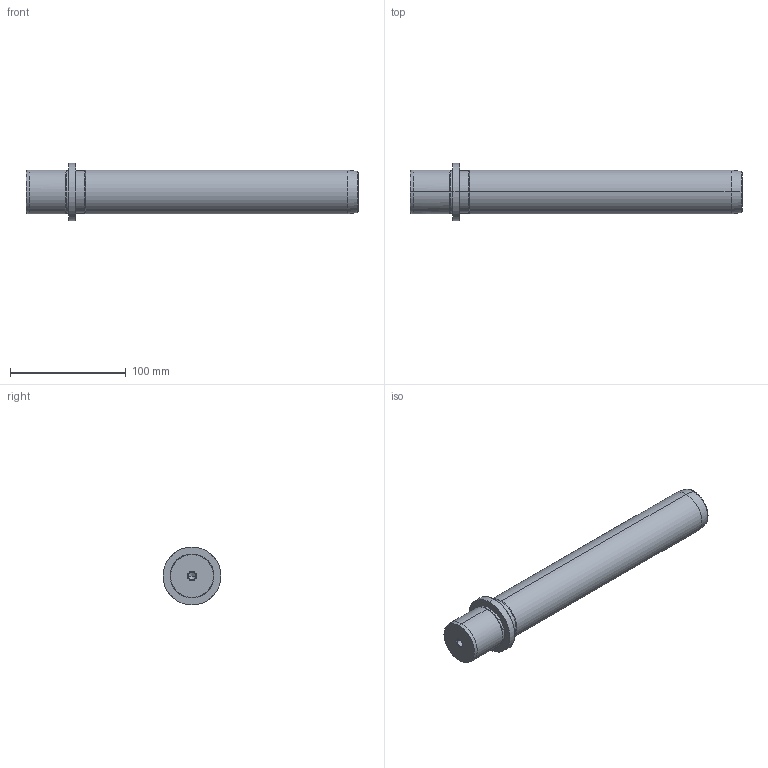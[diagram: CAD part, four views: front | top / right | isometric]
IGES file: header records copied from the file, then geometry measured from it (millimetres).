
Start section: START RECORD GO HERE.
Global section: file name: 718-38x250.igs; native system: DASSAULT SYSTEMES CATIA V5 R20 - www.3ds.com; preprocessor: CATIA Version 5 Release 20 ; author: Utente; organization: NB04-ASUS; date: 20210102.135435; units: millimetre
Bounding box: 287 x 50 x 50 mm (x, y, z)
Surface area: 39269.9 mm2 (no closed solid volume)
Topology: 0 solids, 0 shells, 36 faces, 196 edges, 192 vertices
Faces by surface type: revolution 32, plane 4
